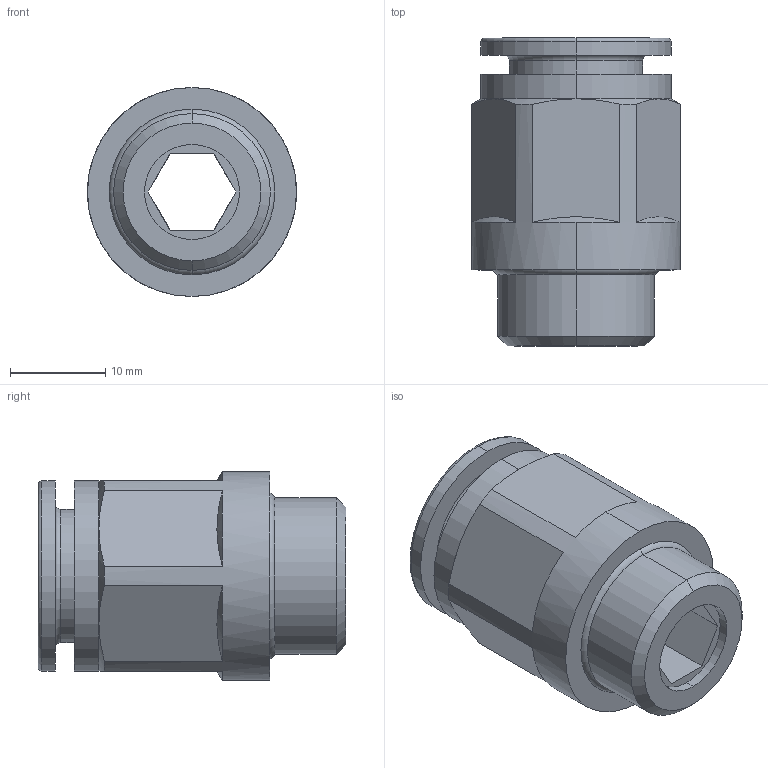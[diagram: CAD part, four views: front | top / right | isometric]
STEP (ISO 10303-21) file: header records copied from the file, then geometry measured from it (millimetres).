
FILE_DESCRIPTION (( 'STEP AP214' ), '1' );
FILE_NAME ('5402000011A.STEP', '2024-09-17T12:55:01', ( '' ), ( '' ), 'SwSTEP 2.0', 'SolidWorks 2020', '' );
FILE_SCHEMA (( 'AUTOMOTIVE_DESIGN' ));
Length unit declared in the file: millimetre
Products named in the file (1): 5402000011A
Bounding box: 22 x 32.4 x 22 mm (x, y, z)
Volume: 6422.5 mm3; surface area: 4004.6 mm2
Topology: 1 solids, 1 shells, 153 faces, 390 edges, 253 vertices
Faces by surface type: plane 88, bspline 26, cone 19, cylinder 14, torus 6
Entity records: 7766 total; most frequent: CARTESIAN_POINT 2522, ORIENTED_EDGE 780, DIRECTION 627, EDGE_CURVE 390, VERTEX_POINT 253, LINE 251, VECTOR 251, AXIS2_PLACEMENT_3D 188
